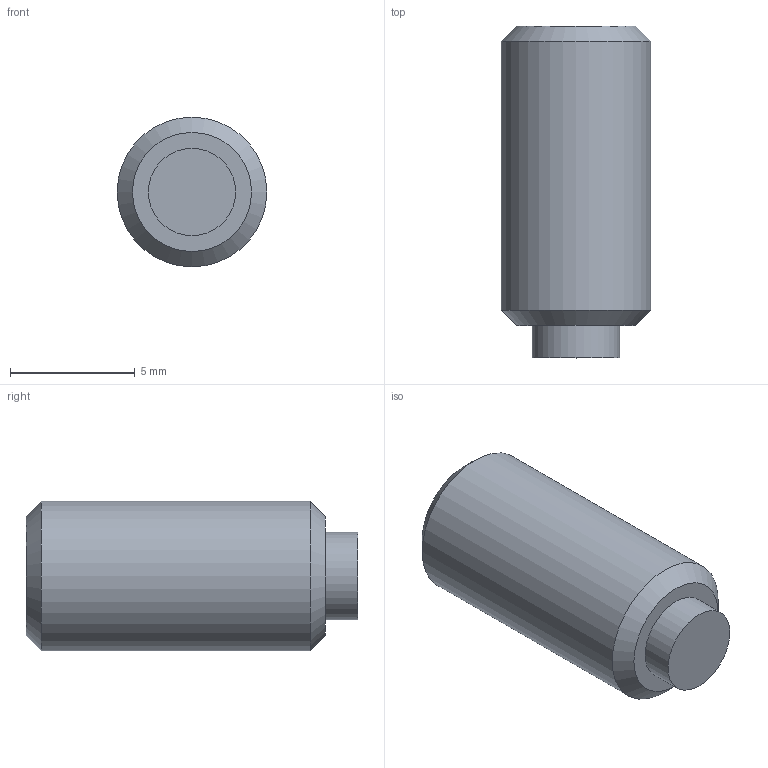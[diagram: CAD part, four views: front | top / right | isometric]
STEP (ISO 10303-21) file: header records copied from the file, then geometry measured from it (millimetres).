
FILE_DESCRIPTION( ( 'STEP AP203' ), '1' );
FILE_NAME( 'C:/Temp/Ganter_Step_05_03_2020/data/3_2/gn913_3/Grub screw GN 913.3-M6-12-KU.stp', '2020-03-13T05:35:36', ( 'License CC BY-ND 4.0' ), ( 'CADENAS' ), ' ', 'PARTsolutions', ' ' );
FILE_SCHEMA( ( 'CONFIG_CONTROL_DESIGN' ) );
Length unit declared in the file: millimetre
Products named in the file (1): _Grub screw GN 913.3-M6-12-KU
Bounding box: 6 x 13.3 x 6 mm (x, y, z)
Volume: 317.9 mm3; surface area: 318.9 mm2
Topology: 1 solids, 1 shells, 14 faces, 28 edges, 18 vertices
Faces by surface type: plane 10, cylinder 2, cone 2
Full cylindrical faces by diameter (mm): 3.5 x1, 6 x1
Entity records: 386 total; most frequent: DIRECTION 60, CARTESIAN_POINT 57, ORIENTED_EDGE 48, EDGE_CURVE 24, AXIS2_PLACEMENT_3D 21, EDGE_LOOP 20, VERTEX_POINT 18, LINE 18
